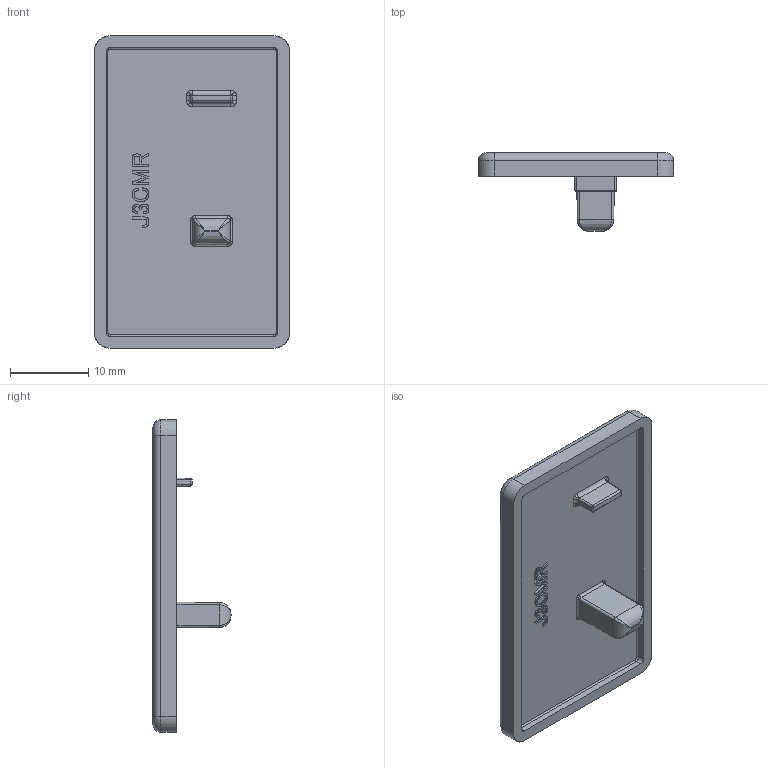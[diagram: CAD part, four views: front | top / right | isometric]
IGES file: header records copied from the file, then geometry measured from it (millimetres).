
Start section: SolidWorks IGES file using analytic representation for surfaces
Global section: file name: C:\Users\admin\Desktop\IGES\J3CMR.igs; native system: SolidWorks 2014; preprocessor: SolidWorks 2014; author: admin_pc; date: 170524.165427; units: millimetre
Bounding box: 25 x 10 x 40 mm (x, y, z)
Surface area: 2579.3 mm2 (no closed solid volume)
Topology: 0 solids, 0 shells, 192 faces, 1678 edges, 1674 vertices
Faces by surface type: bspline 148, revolution 44
